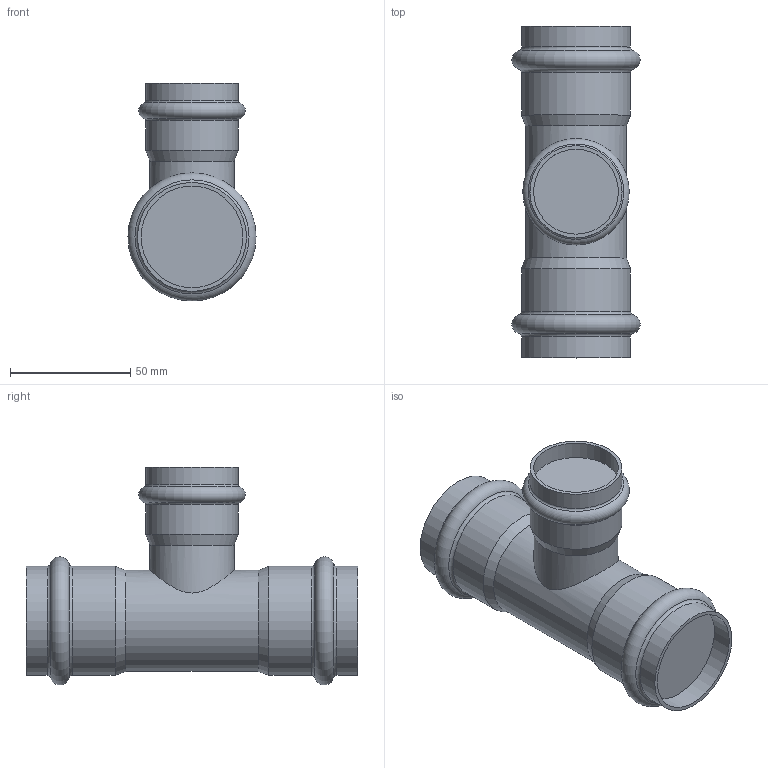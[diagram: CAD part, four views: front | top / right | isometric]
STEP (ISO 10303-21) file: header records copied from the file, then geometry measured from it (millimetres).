
FILE_DESCRIPTION(('STEP AP203'), '1');
FILE_NAME('VTi.931.I.423542', '', ('UNSPECIFIED'), ('UNSPECIFIED'), 'C3D Converter', 'C3D Toolkit', '');
FILE_SCHEMA(('CONFIG_CONTROL_DESIGN'));
Length unit declared in the file: millimetre
Bounding box: 53.28 x 138 x 90.64 mm (x, y, z)
Volume: 236348.8 mm3; surface area: 32950.3 mm2
Topology: 1 solids, 1 shells, 29 faces, 55 edges, 31 vertices
Faces by surface type: cylinder 11, torus 9, plane 6, cone 3
Full cylindrical faces by diameter (mm): 35 x1, 35.3 x1, 38.3 x2, 42 x1, 42.3 x2, 45.3 x4
Entity records: 903 total; most frequent: CARTESIAN_POINT 360, DIRECTION 116, ORIENTED_EDGE 62, AXIS2_PLACEMENT_3D 58, EDGE_LOOP 56, FACE_OUTER_BOUND 43, EDGE_CURVE 31, VERTEX_POINT 31
